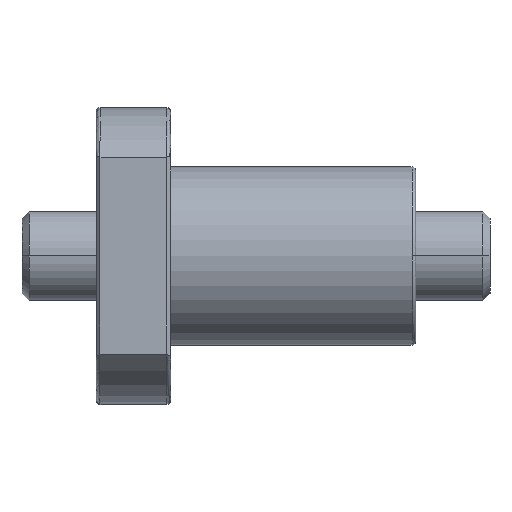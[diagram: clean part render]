
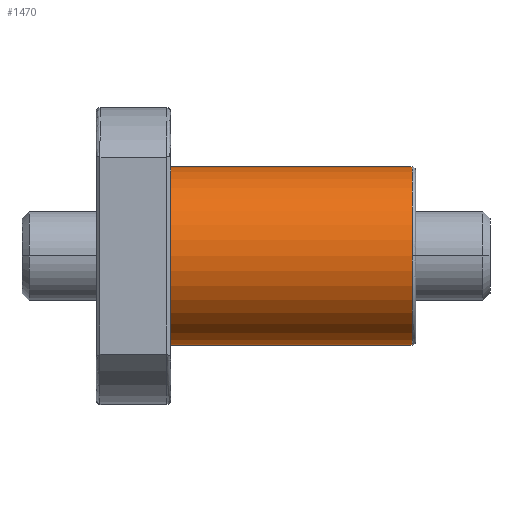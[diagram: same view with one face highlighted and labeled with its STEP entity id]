
A CAD part, top view. The second image highlights one B-rep face of the part: STEP entity #1470.
In plain terms, the highlighted cylindrical face has radius 12 mm (diameter 24 mm), a partial arc.
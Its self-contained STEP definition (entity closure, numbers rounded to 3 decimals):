
#175 = DIRECTION ( 'NONE',  ( -1., 0., 0. ) ) ;
#518 = ORIENTED_EDGE ( 'NONE', *, *, #5275, .F. ) ;
#554 = AXIS2_PLACEMENT_3D ( 'NONE', #2378, #1853, #5479 ) ;
#587 = CARTESIAN_POINT ( 'NONE',  ( 20., 0., 0. ) ) ;
#785 = EDGE_CURVE ( 'NONE', #5170, #6430, #2492, .T. ) ;
#1018 = CARTESIAN_POINT ( 'NONE',  ( 20., -12., 0. ) ) ;
#1153 = AXIS2_PLACEMENT_3D ( 'NONE', #5407, #1717, #3346 ) ;
#1212 = VERTEX_POINT ( 'NONE', #1018 ) ;
#1325 = EDGE_CURVE ( 'NONE', #3763, #1212, #5993, .T. ) ;
#1372 = EDGE_CURVE ( 'NONE', #4788, #3763, #3079, .T. ) ;
#1404 = EDGE_CURVE ( 'NONE', #6430, #4788, #4926, .T. ) ;
#1470 = ADVANCED_FACE ( 'NONE', ( #6156 ), #5243, .T. ) ;
#1495 = DIRECTION ( 'NONE',  ( 0., -1., 0. ) ) ;
#1584 = VECTOR ( 'NONE', #2687, 1000. ) ;
#1672 = DIRECTION ( 'NONE',  ( 0., -1., 0. ) ) ;
#1695 = DIRECTION ( 'NONE',  ( 1., 0., 0. ) ) ;
#1717 = DIRECTION ( 'NONE',  ( -1., 0., 0. ) ) ;
#1853 = DIRECTION ( 'NONE',  ( -1., 0., 0. ) ) ;
#2109 = ORIENTED_EDGE ( 'NONE', *, *, #785, .T. ) ;
#2378 = CARTESIAN_POINT ( 'NONE',  ( 52.5, 0., 0. ) ) ;
#2492 = CIRCLE ( 'NONE', #554, 12. ) ;
#2643 = CARTESIAN_POINT ( 'NONE',  ( 52.5, 12., 0. ) ) ;
#2687 = DIRECTION ( 'NONE',  ( -1., 0., 0. ) ) ;
#3079 = LINE ( 'NONE', #2643, #1584 ) ;
#3346 = DIRECTION ( 'NONE',  ( 0., -1., 0. ) ) ;
#3520 = CARTESIAN_POINT ( 'NONE',  ( 52.5, 0., 0. ) ) ;
#3721 = ORIENTED_EDGE ( 'NONE', *, *, #1404, .T. ) ;
#3763 = VERTEX_POINT ( 'NONE', #5047 ) ;
#3777 = CARTESIAN_POINT ( 'NONE',  ( 52.5, -12., 0. ) ) ;
#3828 = VECTOR ( 'NONE', #175, 1000. ) ;
#4044 = CARTESIAN_POINT ( 'NONE',  ( 52.5, 0., 12. ) ) ;
#4117 = DIRECTION ( 'NONE',  ( -1., 0., 0. ) ) ;
#4339 = EDGE_LOOP ( 'NONE', ( #3721, #5876, #4510, #518, #2109 ) ) ;
#4389 = CARTESIAN_POINT ( 'NONE',  ( 52.5, -12., 0. ) ) ;
#4510 = ORIENTED_EDGE ( 'NONE', *, *, #1325, .T. ) ;
#4788 = VERTEX_POINT ( 'NONE', #5758 ) ;
#4810 = LINE ( 'NONE', #4389, #3828 ) ;
#4926 = CIRCLE ( 'NONE', #1153, 12. ) ;
#5047 = CARTESIAN_POINT ( 'NONE',  ( 20., 12., 0. ) ) ;
#5170 = VERTEX_POINT ( 'NONE', #3777 ) ;
#5243 = CYLINDRICAL_SURFACE ( 'NONE', #6502, 12. ) ;
#5275 = EDGE_CURVE ( 'NONE', #5170, #1212, #4810, .T. ) ;
#5407 = CARTESIAN_POINT ( 'NONE',  ( 52.5, 0., 0. ) ) ;
#5479 = DIRECTION ( 'NONE',  ( 0., -1., 0. ) ) ;
#5758 = CARTESIAN_POINT ( 'NONE',  ( 52.5, 12., 0. ) ) ;
#5835 = AXIS2_PLACEMENT_3D ( 'NONE', #587, #1695, #1672 ) ;
#5876 = ORIENTED_EDGE ( 'NONE', *, *, #1372, .T. ) ;
#5993 = CIRCLE ( 'NONE', #5835, 12. ) ;
#6156 = FACE_OUTER_BOUND ( 'NONE', #4339, .T. ) ;
#6430 = VERTEX_POINT ( 'NONE', #4044 ) ;
#6502 = AXIS2_PLACEMENT_3D ( 'NONE', #3520, #4117, #1495 ) ;
